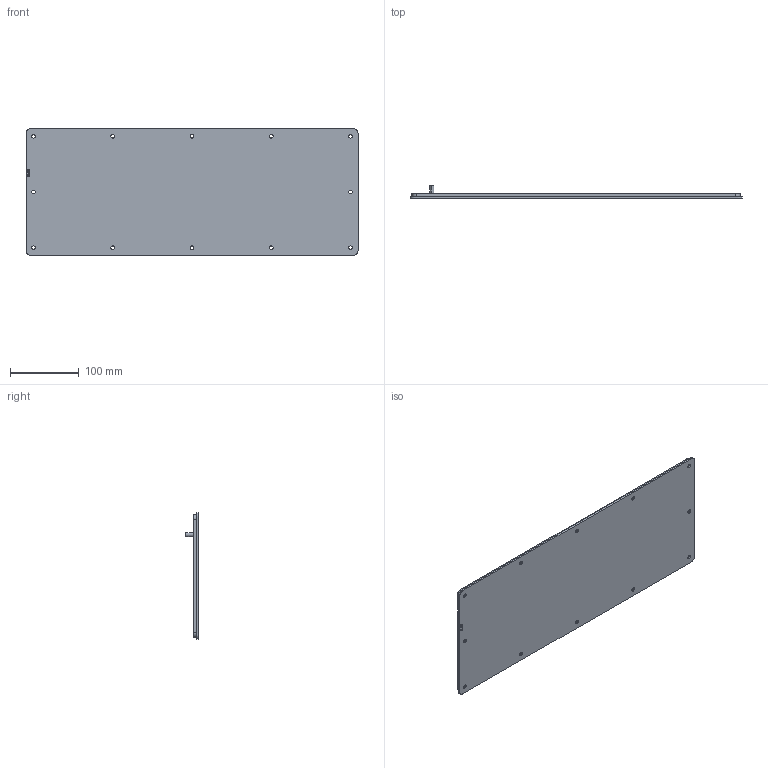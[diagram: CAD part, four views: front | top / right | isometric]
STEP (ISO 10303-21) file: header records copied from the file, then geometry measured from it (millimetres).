
FILE_DESCRIPTION (( 'STEP AP203' ), '1' );
FILE_NAME ('gp208ss6.STEP', '2011-12-08T13:11:18', ( 'Hoffman User' ), ( 'Hoffman Enclosures' ), 'SwSTEP 2.0', 'SolidWorks 2010', '' );
FILE_SCHEMA (( 'CONFIG_CONTROL_DESIGN' ));
Length unit declared in the file: inch
Products named in the file (6): 89075026; gp208ss6; 89075025; 89075024; 99401226_After Weld; 89075023_87930883
Assembly tree (5 placements, depth 4):
  gp208ss6
    89075025
      89075026
      89075024
        99401226_After Weld
        89075023_87930883
Bounding box: 481.96 x 18.41 x 183.51 mm (x, y, z)
Volume: 305039.9 mm3; surface area: 231931.9 mm2
Topology: 3 solids, 3 shells, 172 faces, 463 edges, 306 vertices
Faces by surface type: cylinder 68, bspline 53, plane 43, torus 6, cone 2
Entity records: 8615 total; most frequent: CARTESIAN_POINT 3772, ORIENTED_EDGE 926, DIRECTION 765, EDGE_CURVE 463, VERTEX_POINT 306, AXIS2_PLACEMENT_3D 279, EDGE_LOOP 231, VECTOR 207
